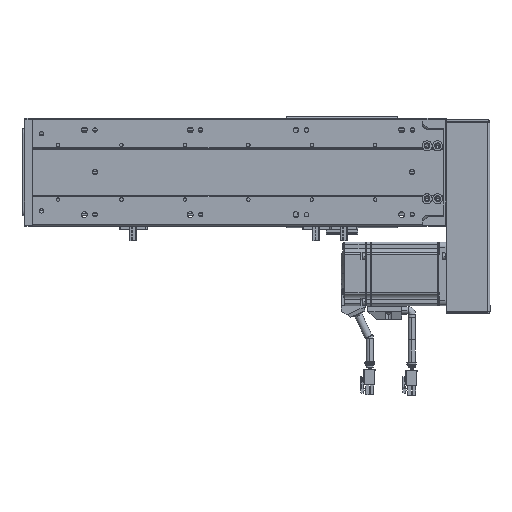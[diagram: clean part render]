
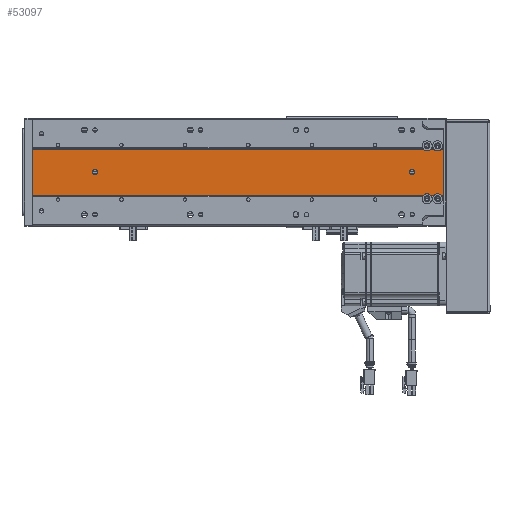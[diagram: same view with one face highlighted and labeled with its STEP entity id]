
A CAD part, front view. The second image highlights one B-rep face of the part: STEP entity #53097.
In plain terms, the highlighted planar face has unit normal (0, -1, 0).
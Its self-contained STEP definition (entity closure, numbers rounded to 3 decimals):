
#9655 = CIRCLE ( 'NONE', #23633, 2.5 ) ;
#13341 = AXIS2_PLACEMENT_3D ( 'NONE', #65383, #65404, #65405 ) ;
#13818 = AXIS2_PLACEMENT_3D ( 'NONE', #56465, #56451, #56435 ) ;
#13830 = AXIS2_PLACEMENT_3D ( 'NONE', #56710, #56742, #56715 ) ;
#13853 = AXIS2_PLACEMENT_3D ( 'NONE', #56377, #56379, #56433 ) ;
#13870 = AXIS2_PLACEMENT_3D ( 'NONE', #59053, #59054, #59051 ) ;
#17356 = CARTESIAN_POINT ( 'NONE',  ( 142.903, 89.548, 59. ) ) ;
#17707 = CARTESIAN_POINT ( 'NONE',  ( 118.817, 89.548, 0. ) ) ;
#17796 = CARTESIAN_POINT ( 'NONE',  ( 118.817, 89.548, 376.302 ) ) ;
#17810 = CARTESIAN_POINT ( 'NONE',  ( 118.817, 89.548, 369.698 ) ) ;
#18789 = DIRECTION ( 'NONE',  ( -1., 0., 0. ) ) ;
#18796 = PLANE ( 'NONE',  #45247 ) ;
#18810 = CARTESIAN_POINT ( 'NONE',  ( 161.989, 89.548, 389. ) ) ;
#18824 = DIRECTION ( 'NONE',  ( 0., 1., 0. ) ) ;
#19375 = FACE_BOUND ( 'NONE', #48198, .T. ) ;
#19411 = FACE_OUTER_BOUND ( 'NONE', #48210, .T. ) ;
#19419 = FACE_BOUND ( 'NONE', #48245, .T. ) ;
#23633 = AXIS2_PLACEMENT_3D ( 'NONE', #83802, #83803, #83804 ) ;
#24045 = EDGE_CURVE ( 'NONE', #29114, #29144, #64626, .T. ) ;
#24492 = EDGE_CURVE ( 'NONE', #28947, #29378, #64785, .T. ) ;
#24518 = EDGE_CURVE ( 'NONE', #29397, #29286, #64794, .T. ) ;
#24631 = EDGE_CURVE ( 'NONE', #28728, #29014, #64831, .T. ) ;
#24668 = EDGE_CURVE ( 'NONE', #29288, #29271, #64822, .T. ) ;
#24883 = EDGE_CURVE ( 'NONE', #29348, #29352, #64885, .T. ) ;
#25165 = AXIS2_PLACEMENT_3D ( 'NONE', #33087, #33085, #33177 ) ;
#25230 = AXIS2_PLACEMENT_3D ( 'NONE', #33855, #33851, #33784 ) ;
#26130 = EDGE_CURVE ( 'NONE', #29348, #93769, #61093, .T. ) ;
#26149 = EDGE_CURVE ( 'NONE', #29091, #29067, #61098, .T. ) ;
#26260 = EDGE_CURVE ( 'NONE', #29352, #28780, #61215, .T. ) ;
#26299 = EDGE_CURVE ( 'NONE', #93769, #29397, #61260, .T. ) ;
#26311 = EDGE_CURVE ( 'NONE', #29286, #29288, #61223, .T. ) ;
#26391 = EDGE_CURVE ( 'NONE', #29144, #29114, #60290, .T. ) ;
#26408 = EDGE_CURVE ( 'NONE', #29271, #29378, #60222, .T. ) ;
#28728 = VERTEX_POINT ( 'NONE', #44570 ) ;
#28780 = VERTEX_POINT ( 'NONE', #44658 ) ;
#28947 = VERTEX_POINT ( 'NONE', #42134 ) ;
#29014 = VERTEX_POINT ( 'NONE', #42431 ) ;
#29067 = VERTEX_POINT ( 'NONE', #42496 ) ;
#29091 = VERTEX_POINT ( 'NONE', #42625 ) ;
#29114 = VERTEX_POINT ( 'NONE', #42818 ) ;
#29144 = VERTEX_POINT ( 'NONE', #17356 ) ;
#29271 = VERTEX_POINT ( 'NONE', #17707 ) ;
#29286 = VERTEX_POINT ( 'NONE', #17796 ) ;
#29288 = VERTEX_POINT ( 'NONE', #17810 ) ;
#29348 = VERTEX_POINT ( 'NONE', #73007 ) ;
#29352 = VERTEX_POINT ( 'NONE', #73090 ) ;
#29378 = VERTEX_POINT ( 'NONE', #73302 ) ;
#29397 = VERTEX_POINT ( 'NONE', #73354 ) ;
#33085 = DIRECTION ( 'NONE',  ( 0., 1., 0. ) ) ;
#33087 = CARTESIAN_POINT ( 'NONE',  ( 165.403, 89.548, 383. ) ) ;
#33177 = DIRECTION ( 'NONE',  ( -1., 0., 0. ) ) ;
#33784 = DIRECTION ( 'NONE',  ( -1., 0., 0. ) ) ;
#33851 = DIRECTION ( 'NONE',  ( 0., 1., 0. ) ) ;
#33855 = CARTESIAN_POINT ( 'NONE',  ( 165.403, 89.548, 373. ) ) ;
#41328 = ORIENTED_EDGE ( 'NONE', *, *, #26149, .F. ) ;
#41346 = ORIENTED_EDGE ( 'NONE', *, *, #65635, .F. ) ;
#41370 = ORIENTED_EDGE ( 'NONE', *, *, #26408, .T. ) ;
#41411 = ORIENTED_EDGE ( 'NONE', *, *, #26311, .T. ) ;
#41418 = ORIENTED_EDGE ( 'NONE', *, *, #26130, .T. ) ;
#41423 = ORIENTED_EDGE ( 'NONE', *, *, #24631, .F. ) ;
#41425 = ORIENTED_EDGE ( 'NONE', *, *, #26391, .F. ) ;
#41438 = ORIENTED_EDGE ( 'NONE', *, *, #24492, .F. ) ;
#41444 = ORIENTED_EDGE ( 'NONE', *, *, #66746, .T. ) ;
#41449 = ORIENTED_EDGE ( 'NONE', *, *, #26260, .F. ) ;
#41454 = ORIENTED_EDGE ( 'NONE', *, *, #24883, .F. ) ;
#41456 = ORIENTED_EDGE ( 'NONE', *, *, #26299, .T. ) ;
#41459 = ORIENTED_EDGE ( 'NONE', *, *, #24518, .T. ) ;
#41460 = ORIENTED_EDGE ( 'NONE', *, *, #24045, .F. ) ;
#41467 = ORIENTED_EDGE ( 'NONE', *, *, #66737, .T. ) ;
#41468 = ORIENTED_EDGE ( 'NONE', *, *, #24668, .T. ) ;
#42134 = CARTESIAN_POINT ( 'NONE',  ( 161.989, 89.548, 369.698 ) ) ;
#42431 = CARTESIAN_POINT ( 'NONE',  ( 161.989, 89.548, 376.302 ) ) ;
#42496 = CARTESIAN_POINT ( 'NONE',  ( 137.903, 89.548, 359. ) ) ;
#42625 = CARTESIAN_POINT ( 'NONE',  ( 142.903, 89.548, 359. ) ) ;
#42818 = CARTESIAN_POINT ( 'NONE',  ( 137.903, 89.548, 59. ) ) ;
#44570 = CARTESIAN_POINT ( 'NONE',  ( 161.989, 89.548, 379.698 ) ) ;
#44658 = CARTESIAN_POINT ( 'NONE',  ( 161.989, 89.548, 386.302 ) ) ;
#45247 = AXIS2_PLACEMENT_3D ( 'NONE', #18810, #18824, #18789 ) ;
#46028 = CARTESIAN_POINT ( 'NONE',  ( 118.817, 89.548, 386.302 ) ) ;
#48198 = EDGE_LOOP ( 'NONE', ( #41328, #41346 ) ) ;
#48210 = EDGE_LOOP ( 'NONE', ( #41423, #41444, #41449, #41454, #41418, #41456, #41459, #41411, #41468, #41370, #41438, #41467 ) ) ;
#48245 = EDGE_LOOP ( 'NONE', ( #41425, #41460 ) ) ;
#53097 = ADVANCED_FACE ( 'NONE', ( #19375, #19419, #19411 ), #18796, .F. ) ;
#56209 = DIRECTION ( 'NONE',  ( 0., 0., -1. ) ) ;
#56263 = CARTESIAN_POINT ( 'NONE',  ( 161.989, 89.548, 389. ) ) ;
#56377 = CARTESIAN_POINT ( 'NONE',  ( 115.403, 89.548, 373. ) ) ;
#56379 = DIRECTION ( 'NONE',  ( 0., 1., 0. ) ) ;
#56433 = DIRECTION ( 'NONE',  ( -1., 0., 0. ) ) ;
#56435 = DIRECTION ( 'NONE',  ( -1., 0., 0. ) ) ;
#56451 = DIRECTION ( 'NONE',  ( 0., 1., 0. ) ) ;
#56465 = CARTESIAN_POINT ( 'NONE',  ( 115.403, 89.548, 383. ) ) ;
#56710 = CARTESIAN_POINT ( 'NONE',  ( 140.403, 89.548, 59. ) ) ;
#56715 = DIRECTION ( 'NONE',  ( 1., 0., 0. ) ) ;
#56742 = DIRECTION ( 'NONE',  ( 0., -1., 0. ) ) ;
#56814 = CARTESIAN_POINT ( 'NONE',  ( 161.989, 89.548, 0. ) ) ;
#56820 = DIRECTION ( 'NONE',  ( 1., 0., 0. ) ) ;
#59025 = CARTESIAN_POINT ( 'NONE',  ( 118.817, 89.548, 389. ) ) ;
#59028 = DIRECTION ( 'NONE',  ( 0., 0., -1. ) ) ;
#59051 = DIRECTION ( 'NONE',  ( 1., 0., 0. ) ) ;
#59053 = CARTESIAN_POINT ( 'NONE',  ( 140.403, 89.548, 359. ) ) ;
#59054 = DIRECTION ( 'NONE',  ( 0., -1., 0. ) ) ;
#60222 = LINE ( 'NONE', #56814, #60227 ) ;
#60227 = VECTOR ( 'NONE', #56820, 1000. ) ;
#60290 = CIRCLE ( 'NONE', #13830, 2.5 ) ;
#61093 = LINE ( 'NONE', #59025, #61164 ) ;
#61098 = CIRCLE ( 'NONE', #13870, 2.5 ) ;
#61164 = VECTOR ( 'NONE', #59028, 1000. ) ;
#61215 = LINE ( 'NONE', #56263, #61247 ) ;
#61223 = CIRCLE ( 'NONE', #13853, 4.75 ) ;
#61247 = VECTOR ( 'NONE', #56209, 1000. ) ;
#61260 = CIRCLE ( 'NONE', #13818, 4.75 ) ;
#63939 = CARTESIAN_POINT ( 'NONE',  ( 161.989, 89.548, 389. ) ) ;
#63943 = DIRECTION ( 'NONE',  ( 0., 0., -1. ) ) ;
#64215 = CARTESIAN_POINT ( 'NONE',  ( 161.989, 89.548, 389. ) ) ;
#64260 = DIRECTION ( 'NONE',  ( 0., 0., -1. ) ) ;
#64288 = CARTESIAN_POINT ( 'NONE',  ( 118.817, 89.548, 389. ) ) ;
#64292 = DIRECTION ( 'NONE',  ( 0., 0., -1. ) ) ;
#64626 = CIRCLE ( 'NONE', #13341, 2.5 ) ;
#64785 = LINE ( 'NONE', #64215, #64792 ) ;
#64792 = VECTOR ( 'NONE', #64260, 1000. ) ;
#64794 = LINE ( 'NONE', #64288, #64807 ) ;
#64807 = VECTOR ( 'NONE', #64292, 1000. ) ;
#64822 = LINE ( 'NONE', #99576, #64865 ) ;
#64831 = LINE ( 'NONE', #63939, #64861 ) ;
#64861 = VECTOR ( 'NONE', #63943, 1000. ) ;
#64865 = VECTOR ( 'NONE', #99595, 1000. ) ;
#64885 = LINE ( 'NONE', #99814, #64886 ) ;
#64886 = VECTOR ( 'NONE', #99859, 1000. ) ;
#65383 = CARTESIAN_POINT ( 'NONE',  ( 140.403, 89.548, 59. ) ) ;
#65404 = DIRECTION ( 'NONE',  ( 0., -1., 0. ) ) ;
#65405 = DIRECTION ( 'NONE',  ( 1., 0., 0. ) ) ;
#65635 = EDGE_CURVE ( 'NONE', #29067, #29091, #9655, .T. ) ;
#66737 = EDGE_CURVE ( 'NONE', #28947, #29014, #77335, .T. ) ;
#66746 = EDGE_CURVE ( 'NONE', #28728, #28780, #77340, .T. ) ;
#73007 = CARTESIAN_POINT ( 'NONE',  ( 118.817, 89.548, 389. ) ) ;
#73090 = CARTESIAN_POINT ( 'NONE',  ( 161.989, 89.548, 389. ) ) ;
#73302 = CARTESIAN_POINT ( 'NONE',  ( 161.989, 89.548, 0. ) ) ;
#73354 = CARTESIAN_POINT ( 'NONE',  ( 118.817, 89.548, 379.698 ) ) ;
#77335 = CIRCLE ( 'NONE', #25230, 4.75 ) ;
#77340 = CIRCLE ( 'NONE', #25165, 4.75 ) ;
#83802 = CARTESIAN_POINT ( 'NONE',  ( 140.403, 89.548, 359. ) ) ;
#83803 = DIRECTION ( 'NONE',  ( 0., -1., 0. ) ) ;
#83804 = DIRECTION ( 'NONE',  ( 1., 0., 0. ) ) ;
#93769 = VERTEX_POINT ( 'NONE', #46028 ) ;
#99576 = CARTESIAN_POINT ( 'NONE',  ( 118.817, 89.548, 389. ) ) ;
#99595 = DIRECTION ( 'NONE',  ( 0., 0., -1. ) ) ;
#99814 = CARTESIAN_POINT ( 'NONE',  ( 161.989, 89.548, 389. ) ) ;
#99859 = DIRECTION ( 'NONE',  ( 1., 0., 0. ) ) ;
